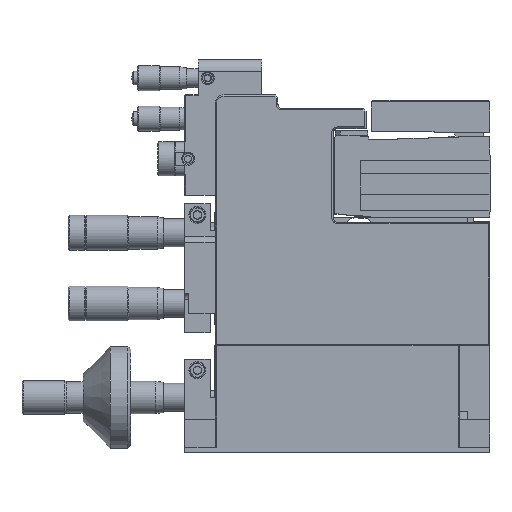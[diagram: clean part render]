
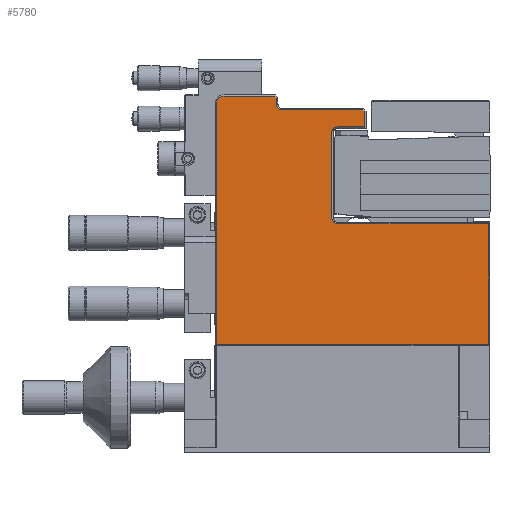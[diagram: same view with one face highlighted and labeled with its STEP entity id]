
A CAD part, top view. The second image highlights one B-rep face of the part: STEP entity #5780.
In plain terms, the highlighted planar face has unit normal (0, 0, 1).
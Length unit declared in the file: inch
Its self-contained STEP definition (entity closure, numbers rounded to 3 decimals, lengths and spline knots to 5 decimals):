
#3380=EDGE_CURVE('P5A-L-MMMM-HN-I[2]',#10023,#10024,#10025,.T.);
#3502=EDGE_CURVE('P5A-L-MMMM-HN-I[2]',#10225,#10226,#10227,.F.);
#3946=EDGE_CURVE('P5A-L-MMMM-HN-I[2]',#10917,#9224,#10918,.T.);
#4394=EDGE_CURVE('P5A-L-MMMM-HN-I[2]',#11573,#11574,#11575,.T.);
#5426=EDGE_CURVE('P5A-L-MMMM-HN-I[2]',#10024,#10612,#13037,.T.);
#5672=EDGE_CURVE('P5A-L-MMMM-HN-I[2]',#13084,#10171,#13364,.T.);
#5780=ADVANCED_FACE('P5A-L-MMMM-HN-I[2]',(#13533),#13534,.T.);
#6009=EDGE_CURVE('P5A-L-MMMM-HN-I[2]',#10226,#10917,#13828,.F.);
#6059=EDGE_CURVE('P5A-L-MMMM-HN-I[2]',#11574,#12010,#13895,.T.);
#6702=EDGE_CURVE('P5A-L-MMMM-HN-I[2]',#10105,#13235,#14724,.T.);
#6923=EDGE_CURVE('P5A-L-MMMM-HN-I[2]',#12320,#12010,#15010,.T.);
#7329=EDGE_CURVE('P5A-L-MMMM-HN-I[2]',#12320,#10225,#15502,.T.);
#7402=EDGE_CURVE('P5A-L-MMMM-HN-I[2]',#10612,#11914,#15586,.T.);
#7470=EDGE_CURVE('P5A-L-MMMM-HN-I[2]',#9224,#13084,#15666,.T.);
#8063=EDGE_CURVE('P5A-L-MMMM-HN-I[2]',#10171,#10023,#16388,.T.);
#8073=EDGE_CURVE('P5A-L-MMMM-HN-I[2]',#13235,#11573,#16400,.T.);
#8138=EDGE_CURVE('P5A-L-MMMM-HN-I[2]',#11914,#10105,#16473,.T.);
#9224=VERTEX_POINT('',#17848);
#10023=VERTEX_POINT('',#19011);
#10024=VERTEX_POINT('',#19012);
#10025=LINE('',#19013,#19014);
#10105=VERTEX_POINT('',#19144);
#10171=VERTEX_POINT('',#19247);
#10225=VERTEX_POINT('',#19344);
#10226=VERTEX_POINT('',#19345);
#10227=CIRCLE('',#19346,0.11);
#10612=VERTEX_POINT('',#19913);
#10917=VERTEX_POINT('',#20391);
#10918=LINE('',#20392,#20393);
#11573=VERTEX_POINT('',#21360);
#11574=VERTEX_POINT('',#21361);
#11575=LINE('',#21362,#21363);
#11914=VERTEX_POINT('',#21862);
#12010=VERTEX_POINT('',#22012);
#12320=VERTEX_POINT('',#22496);
#13037=LINE('',#23613,#23614);
#13084=VERTEX_POINT('',#23683);
#13235=VERTEX_POINT('',#23922);
#13364=CIRCLE('',#24135,0.085);
#13533=FACE_OUTER_BOUND('',#24374,.T.);
#13534=PLANE('',#24375);
#13828=LINE('',#24827,#24828);
#13895=LINE('',#24933,#24934);
#14724=LINE('',#26275,#26276);
#15010=LINE('',#26751,#26752);
#15502=LINE('',#27589,#27590);
#15586=LINE('',#27746,#27747);
#15666=LINE('',#27883,#27884);
#16388=LINE('',#29009,#29010);
#16400=CIRCLE('',#29027,0.085);
#16473=CIRCLE('',#29152,0.085);
#17848=CARTESIAN_POINT('',(-4.145,-0.46828,0.875));
#19011=CARTESIAN_POINT('',(-2.87328,-0.645,0.875));
#19012=CARTESIAN_POINT('',(-2.845,-0.67328,0.875));
#19013=CARTESIAN_POINT('',(-2.31539,-1.20289,0.875));
#19014=VECTOR('',#31701,1.0);
#19144=CARTESIAN_POINT('',(-3.33,-0.98,0.875));
#19247=CARTESIAN_POINT('',(-4.06,-0.645,0.875));
#19344=CARTESIAN_POINT('',(-5.03,-0.55,0.875));
#19345=CARTESIAN_POINT('',(-4.92,-0.44,0.875));
#19346=AXIS2_PLACEMENT_3D('',#31842,#31843,#31844);
#19913=CARTESIAN_POINT('',(-2.845,-0.895,0.875));
#20391=CARTESIAN_POINT('',(-4.17328,-0.44,0.875));
#20392=CARTESIAN_POINT('',(-3.23914,-1.37414,0.875));
#20393=VECTOR('',#32564,1.0);
#21360=CARTESIAN_POINT('',(-3.245,-2.32,0.875));
#21361=CARTESIAN_POINT('',(-1.02,-2.32,0.875));
#21362=CARTESIAN_POINT('',(-2.07125,-2.32,0.875));
#21363=VECTOR('',#33345,1.0);
#21862=CARTESIAN_POINT('',(-3.245,-0.895,0.875));
#22012=CARTESIAN_POINT('',(-1.02,-4.1,0.875));
#22496=CARTESIAN_POINT('',(-5.03,-4.1,0.875));
#23613=CARTESIAN_POINT('',(-2.845,-1.875,0.875));
#23614=VECTOR('',#34954,1.0);
#23683=CARTESIAN_POINT('',(-4.145,-0.56,0.875));
#23922=CARTESIAN_POINT('',(-3.33,-2.235,0.875));
#24135=AXIS2_PLACEMENT_3D('',#35308,#35309,#35310);
#24374=EDGE_LOOP('',(#35501,#35502,#35503,#35504,#35505,#35506,#35507,#35508,#35509,#35510,#35511,#35512,#35513,#35514,#35515,#35516));
#24375=AXIS2_PLACEMENT_3D('',#35517,#35518,#35519);
#24827=CARTESIAN_POINT('',(-3.025,-0.44,0.875));
#24828=VECTOR('',#35926,1.0);
#24933=CARTESIAN_POINT('',(-1.02,-3.485,0.875));
#24934=VECTOR('',#36014,1.0);
#26275=CARTESIAN_POINT('',(-3.33,-2.29125,0.875));
#26276=VECTOR('',#37088,1.0);
#26751=CARTESIAN_POINT('',(-3.025,-4.1,0.875));
#26752=VECTOR('',#37421,1.0);
#27589=CARTESIAN_POINT('',(-5.03,-1.73232,0.875));
#27590=VECTOR('',#37995,1.0);
#27746=CARTESIAN_POINT('',(-3.02375,-0.895,0.875));
#27747=VECTOR('',#38074,1.0);
#27883=CARTESIAN_POINT('',(-4.145,-1.74875,0.875));
#27884=VECTOR('',#38170,1.0);
#29009=CARTESIAN_POINT('',(-3.225,-0.645,0.875));
#29010=VECTOR('',#39073,1.0);
#29027=AXIS2_PLACEMENT_3D('',#39098,#39099,#39100);
#29152=AXIS2_PLACEMENT_3D('',#39188,#39189,#39190);
#31701=DIRECTION('',(0.707,-0.707,0.0));
#31842=CARTESIAN_POINT('',(-4.92,-0.55,0.875));
#31843=DIRECTION('',(0.0,0.0,1.0));
#31844=DIRECTION('',(-0.707,0.707,0.0));
#32564=DIRECTION('',(0.707,-0.707,0.0));
#33345=DIRECTION('',(1.0,0.0,0.0));
#34954=DIRECTION('',(0.0,-1.0,0.0));
#35308=CARTESIAN_POINT('',(-4.06,-0.56,0.875));
#35309=DIRECTION('',(0.0,0.0,1.0));
#35310=DIRECTION('',(-0.707,-0.707,0.0));
#35501=ORIENTED_EDGE('',*,*,#6009,.F.);
#35502=ORIENTED_EDGE('',*,*,#3502,.F.);
#35503=ORIENTED_EDGE('',*,*,#7329,.F.);
#35504=ORIENTED_EDGE('',*,*,#6923,.T.);
#35505=ORIENTED_EDGE('',*,*,#6059,.F.);
#35506=ORIENTED_EDGE('',*,*,#4394,.F.);
#35507=ORIENTED_EDGE('',*,*,#8073,.F.);
#35508=ORIENTED_EDGE('',*,*,#6702,.F.);
#35509=ORIENTED_EDGE('',*,*,#8138,.F.);
#35510=ORIENTED_EDGE('',*,*,#7402,.F.);
#35511=ORIENTED_EDGE('',*,*,#5426,.F.);
#35512=ORIENTED_EDGE('',*,*,#3380,.F.);
#35513=ORIENTED_EDGE('',*,*,#8063,.F.);
#35514=ORIENTED_EDGE('',*,*,#5672,.F.);
#35515=ORIENTED_EDGE('',*,*,#7470,.F.);
#35516=ORIENTED_EDGE('',*,*,#3946,.F.);
#35517=CARTESIAN_POINT('',(-3.025,-3.0,0.875));
#35518=DIRECTION('',(0.0,0.0,1.0));
#35519=DIRECTION('',(0.0,-1.0,0.0));
#35926=DIRECTION('',(-1.0,0.0,0.0));
#36014=DIRECTION('',(0.0,-1.0,-0.0));
#37088=DIRECTION('',(0.0,-1.0,0.0));
#37421=DIRECTION('',(1.0,0.0,0.0));
#37995=DIRECTION('',(0.0,1.0,0.0));
#38074=DIRECTION('',(-1.0,0.0,0.0));
#38170=DIRECTION('',(0.0,-1.0,-0.0));
#39073=DIRECTION('',(1.0,0.0,0.0));
#39098=CARTESIAN_POINT('',(-3.245,-2.235,0.875));
#39099=DIRECTION('',(0.0,0.0,1.0));
#39100=DIRECTION('',(-0.707,-0.707,0.0));
#39188=CARTESIAN_POINT('',(-3.245,-0.98,0.875));
#39189=DIRECTION('',(0.0,0.0,1.0));
#39190=DIRECTION('',(-0.707,0.707,0.0));
